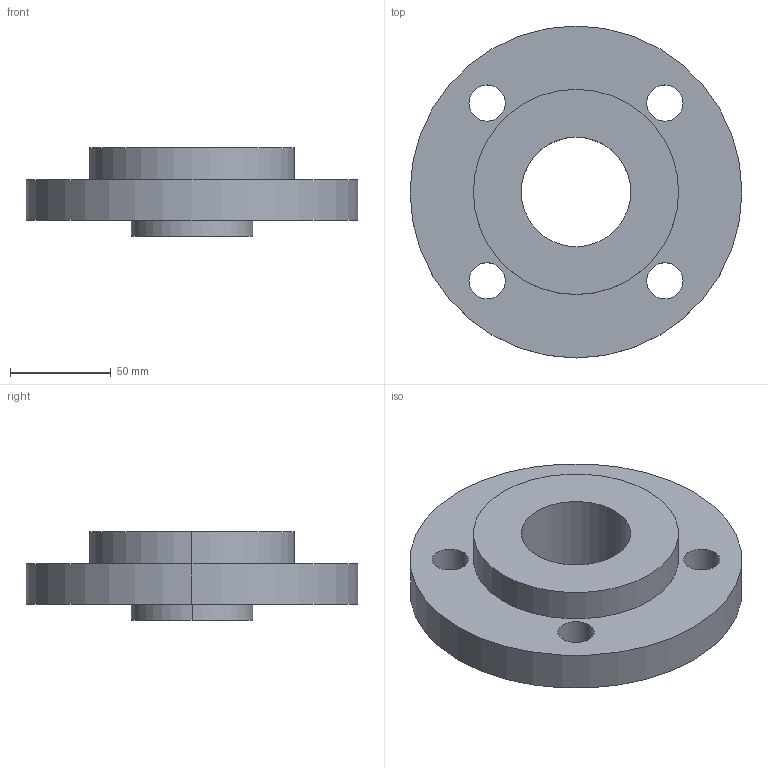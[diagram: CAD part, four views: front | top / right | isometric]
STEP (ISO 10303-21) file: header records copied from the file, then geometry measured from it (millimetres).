
FILE_DESCRIPTION (( 'STEP AP214' ), '1' );
FILE_NAME ('PN40 DN50 Type 04 in 34 - (Type A Face).STEP', '2018-12-30T04:42:57', ( '' ), ( '' ), 'SwSTEP 2.0', 'SolidWorks 2019', '' );
FILE_SCHEMA (( 'AUTOMOTIVE_DESIGN' ));
Length unit declared in the file: millimetre
Products named in the file (1): PN40 DN50 Type 04 in 34 - (Type A Face)
Bounding box: 165 x 165 x 44 mm (x, y, z)
Volume: 425200.4 mm3; surface area: 79296.9 mm2
Topology: 2 solids, 2 shells, 29 faces, 66 edges, 42 vertices
Faces by surface type: cylinder 18, cone 6, plane 5
Entity records: 901 total; most frequent: DIRECTION 168, CARTESIAN_POINT 138, ORIENTED_EDGE 132, AXIS2_PLACEMENT_3D 72, EDGE_CURVE 66, CIRCLE 42, EDGE_LOOP 42, VERTEX_POINT 42
